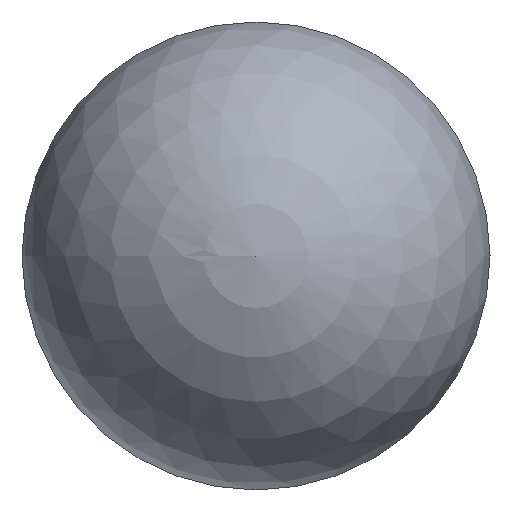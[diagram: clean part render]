
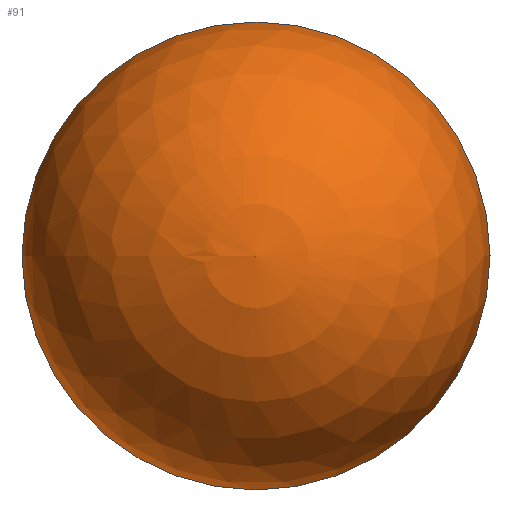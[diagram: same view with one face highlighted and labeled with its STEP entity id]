
A CAD part, left-side view. The second image highlights one B-rep face of the part: STEP entity #91.
In plain terms, the highlighted spherical face has radius 19 mm.
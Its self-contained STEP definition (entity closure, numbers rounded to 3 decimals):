
#27=ORIENTED_EDGE('',*,*,#41,.F.);
#41=EDGE_CURVE('',#48,#48,#55,.T.);
#48=VERTEX_POINT('',#162);
#55=CIRCLE('',#113,19.);
#62=EDGE_LOOP('',(#27));
#76=FACE_BOUND('',#62,.T.);
#90=SPHERICAL_SURFACE('',#112,19.);
#91=ADVANCED_FACE('',(#76),#90,.T.);
#112=AXIS2_PLACEMENT_3D('',#160,#129,#130);
#113=AXIS2_PLACEMENT_3D('',#161,#131,#132);
#129=DIRECTION('',(1.,0.,0.));
#130=DIRECTION('',(0.,1.,0.));
#131=DIRECTION('',(1.,0.,0.));
#132=DIRECTION('',(0.,1.,0.));
#160=CARTESIAN_POINT('',(19.,0.,0.));
#161=CARTESIAN_POINT('',(19.,0.,0.));
#162=CARTESIAN_POINT('',(19.,19.,0.));
